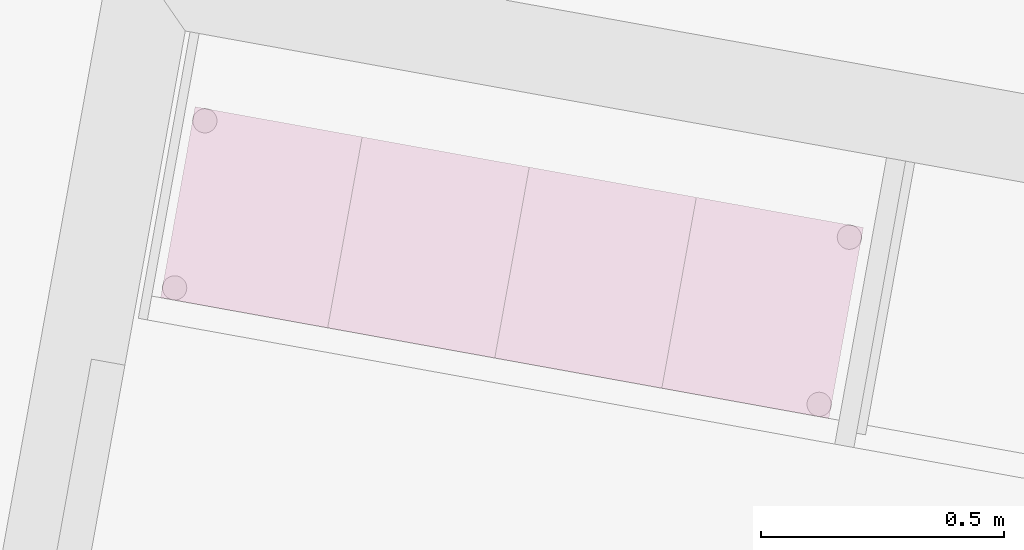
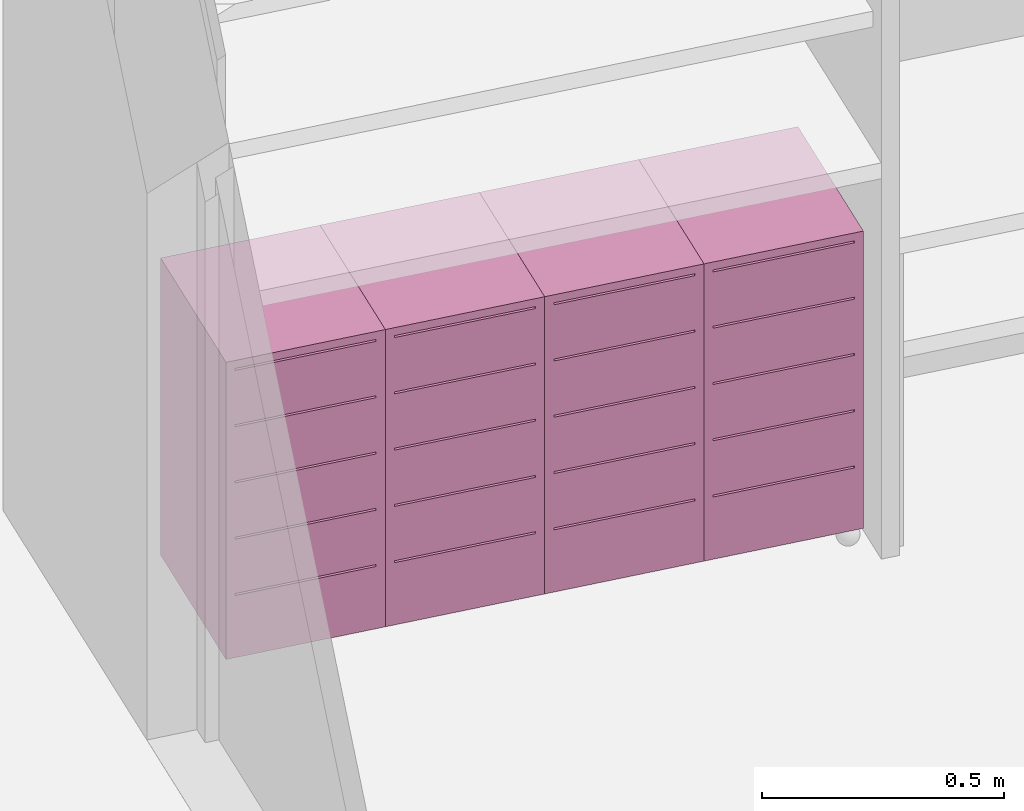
# One storey, part 19 of 79: 4 furnishings.
"""IFC2X3 building model written with IfcOpenShell, lengths in metres."""

from ifc_helpers import new_model, entity, si_unit, converted_unit, derived_unit, money_unit, direction, frame, origin_with_axes, place, context, subcontext, project, spatial, open_shell, faceted_brep, surface_model, source, transform, mapped, material, type_object, element, save


model = new_model("IFC2X3")

# Units and contexts
model_context = context("Model", 3, precision=1e-05, world=origin_with_axes(), true_north=direction((0.0, 1.0)))
body_context = subcontext(model_context, "Body", "Model", "MODEL_VIEW")
ifc_project = project(units=[si_unit("LENGTHUNIT", "METRE"), si_unit("AREAUNIT", "SQUARE_METRE"), si_unit("VOLUMEUNIT", "CUBIC_METRE"), converted_unit("PLANEANGLEUNIT", "DEGREE", entity("IfcPlaneAngleMeasure", 0.0174532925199), si_unit("PLANEANGLEUNIT", "RADIAN"), dimensions=[0, 0, 0, 0, 0, 0, 0]), money_unit("CHF"), converted_unit("TIMEUNIT", "Year", entity("IfcTimeMeasure", 31556926.0), si_unit("TIMEUNIT", "SECOND"), dimensions=[0, 0, 1, 0, 0, 0, 0]), si_unit("MASSUNIT", "GRAM", prefix="KILO"), si_unit("THERMODYNAMICTEMPERATUREUNIT", "DEGREE_CELSIUS"), si_unit("LUMINOUSINTENSITYUNIT", "LUMEN"), si_unit("ENERGYUNIT", "JOULE", prefix="MEGA"), derived_unit("THERMALCONDUCTANCEUNIT", [(si_unit("POWERUNIT", "WATT"), 1), (si_unit("LENGTHUNIT", "METRE"), -1), (si_unit("THERMODYNAMICTEMPERATUREUNIT", "KELVIN"), -1)]), derived_unit("SPECIFICHEATCAPACITYUNIT", [(si_unit("ENERGYUNIT", "JOULE"), 1), (si_unit("MASSUNIT", "GRAM", prefix="KILO"), -1), (si_unit("THERMODYNAMICTEMPERATUREUNIT", "KELVIN"), -1)]), derived_unit("MASSDENSITYUNIT", [(si_unit("MASSUNIT", "GRAM", prefix="KILO"), 1), (si_unit("VOLUMEUNIT", "CUBIC_METRE"), -1)])], contexts=[model_context])

# Site, building, storey
site_placement = place(None, frame((0.0, 0.0, 0.0), z_axis=(0.0, 0.0, 1.0), x_axis=(-0.177771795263, -0.984071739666, 0.0)))
site = spatial("IfcSite", under=ifc_project, at=site_placement, Name="Site", CompositionType="ELEMENT")
building_placement = place(site_placement, origin_with_axes())
building = spatial("IfcBuilding", under=site, at=building_placement, Name="Bâtiment", CompositionType="ELEMENT")
storey_placement = place(building_placement, origin_with_axes())
storey = spatial("IfcBuildingStorey", under=building, at=storey_placement, Name="RDC", CompositionType="ELEMENT", Elevation=0.0)

# Furnishings
ifc_material = material(Name="Matériau de construction IFC")
furnishing_element_type = type_object("IfcFurnishingElementType", Name="Caisson à roulettes 3 21")
shared_shape = source(origin_with_axes(), body_context, "Body", "SurfaceModel", [
    surface_model("IfcShellBasedSurfaceModel", [(0.33, 0.02, 0.0), (0.02, 0.02, 0.0), (0.02, 0.4, 0.0), (0.33, 0.4, 0.0)], [open_shell([[[0, 1, 2, 3]]])]),
    faceted_brep([(0.0, 0.4, 0.0), (0.35, 0.4, 0.0), (0.35, 0.0, 0.0), (0.0, 0.0, 0.0), (0.0, 0.4, 0.75), (0.35, 0.4, 0.75), (0.02, 0.4, 0.02), (0.33, 0.4, 0.02), (0.33, 0.4, 0.73), (0.02, 0.4, 0.73), (0.35, 0.0, 0.75), (0.0, 0.0, 0.75), (0.02, 0.0, 0.02), (0.02, 0.0, 0.73), (0.33, 0.0, 0.73), (0.33, 0.0, 0.02)], [[[0, 1, 2, 3]], [[0, 4, 5, 1], [6, 7, 8, 9]], [[1, 5, 10, 2]], [[3, 2, 10, 11], [12, 13, 14, 15]], [[4, 0, 3, 11]], [[5, 4, 11, 10]], [[7, 6, 12, 15]], [[8, 7, 15, 14]], [[9, 8, 14, 13]], [[6, 9, 13, 12]]]),
    faceted_brep([(0.33, 0.4, 0.02), (0.02, 0.4, 0.02), (0.02, 0.4, 0.73), (0.33, 0.4, 0.73), (0.33, 0.38, 0.02), (0.02, 0.38, 0.02), (0.02, 0.38, 0.73), (0.33, 0.38, 0.73)], [[[0, 1, 2, 3]], [[1, 0, 4, 5]], [[2, 1, 5, 6]], [[3, 2, 6, 7]], [[0, 3, 7, 4]], [[5, 4, 7, 6]]]),
    faceted_brep([(0.33, 0.0, 0.02), (0.02, 0.0, 0.02), (0.02, 0.38, 0.02), (0.33, 0.38, 0.02), (0.33, 0.0, 0.157), (0.02, 0.0, 0.157), (0.02, 0.38, 0.157), (0.33, 0.38, 0.157)], [[[0, 1, 2, 3]], [[1, 0, 4, 5]], [[2, 1, 5, 6]], [[3, 2, 6, 7]], [[0, 3, 7, 4]], [[5, 4, 7, 6]]]),
    faceted_brep([(0.33, 0.0, 0.162), (0.02, 0.0, 0.162), (0.02, 0.38, 0.162), (0.33, 0.38, 0.162), (0.33, 0.0, 0.299), (0.02, 0.0, 0.299), (0.02, 0.38, 0.299), (0.33, 0.38, 0.299)], [[[0, 1, 2, 3]], [[1, 0, 4, 5]], [[2, 1, 5, 6]], [[3, 2, 6, 7]], [[0, 3, 7, 4]], [[5, 4, 7, 6]]]),
    faceted_brep([(0.33, 0.0, 0.304), (0.02, 0.0, 0.304), (0.02, 0.38, 0.304), (0.33, 0.38, 0.304), (0.33, 0.0, 0.441), (0.02, 0.0, 0.441), (0.02, 0.38, 0.441), (0.33, 0.38, 0.441)], [[[0, 1, 2, 3]], [[1, 0, 4, 5]], [[2, 1, 5, 6]], [[3, 2, 6, 7]], [[0, 3, 7, 4]], [[5, 4, 7, 6]]]),
    faceted_brep([(0.33, 0.0, 0.446), (0.02, 0.0, 0.446), (0.02, 0.38, 0.446), (0.33, 0.38, 0.446), (0.33, 0.0, 0.583), (0.02, 0.0, 0.583), (0.02, 0.38, 0.583), (0.33, 0.38, 0.583)], [[[0, 1, 2, 3]], [[1, 0, 4, 5]], [[2, 1, 5, 6]], [[3, 2, 6, 7]], [[0, 3, 7, 4]], [[5, 4, 7, 6]]]),
    faceted_brep([(0.33, 0.0, 0.588), (0.02, 0.0, 0.588), (0.02, 0.38, 0.588), (0.33, 0.38, 0.588), (0.33, 0.0, 0.725), (0.02, 0.0, 0.725), (0.02, 0.38, 0.725), (0.33, 0.38, 0.725)], [[[0, 1, 2, 3]], [[1, 0, 4, 5]], [[2, 1, 5, 6]], [[3, 2, 6, 7]], [[0, 3, 7, 4]], [[5, 4, 7, 6]]]),
])
for number, where, z_axis, x_axis in (
    (1, (110.654860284, -156.399529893, 0.05), (0.0, 0.0, 1.0), (0.0, 1.0, 0.0)),
    (2, (110.654860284, -155.349529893, 0.05), (0.0, 0.0, 1.0), (0.0, 1.0, 0.0)),
    (3, (110.654860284, -156.049529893, 0.05), (0.0, 0.0, 1.0), (0.0, 1.0, 0.0)),
    (4, (110.654860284, -155.699529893, 0.05), (0.0, 0.0, 1.0), (0.0, 1.0, 0.0)),
):
    element("IfcFurnishingElement", number, at=place(storey_placement, frame(where, z_axis=z_axis, x_axis=x_axis)), inside=storey, type_object=furnishing_element_type, material=ifc_material, Name="tiroirs-classe", ObjectType="SYSTEM_FURNITURE", context=body_context, shape_type="MappedRepresentation", body=[
        mapped(shared_shape, transform((0.0, 0.0, 0.0))),
    ])

save(model, "model.ifc")
